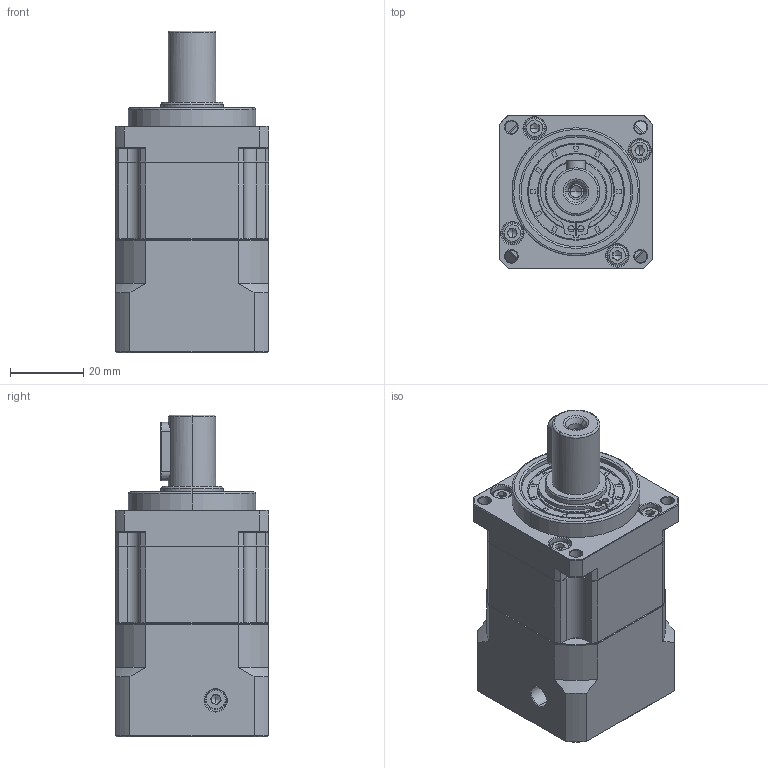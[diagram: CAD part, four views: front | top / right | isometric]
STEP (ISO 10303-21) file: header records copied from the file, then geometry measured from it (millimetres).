
FILE_DESCRIPTION (( 'STEP AP214' ), '1' );
FILE_NAME ('ZB040-L1-P2-8-30-45-M3.STEP', '2023-06-06T12:52:16', ( 'Windows 蚚誧' ), ( 'Organization' ), 'SwSTEP 2.0', 'SolidWorks 2016', '' );
FILE_SCHEMA (( 'AUTOMOTIVE_DESIGN' ));
Length unit declared in the file: millimetre
Products named in the file (1): ZB040-L1-P2-8-30-45-M3
Bounding box: 42 x 42 x 88 mm (x, y, z)
Volume: 99127.1 mm3; surface area: 26593.3 mm2
Topology: 6 solids, 6 shells, 1711 faces, 4429 edges, 2806 vertices
Faces by surface type: plane 675, cylinder 431, cone 303, bspline 282, torus 20
Entity records: 93578 total; most frequent: CARTESIAN_POINT 35660, ORIENTED_EDGE 8798, DIRECTION 7091, EDGE_CURVE 4399, VERTEX_POINT 2806, LINE 2447, VECTOR 2447, AXIS2_PLACEMENT_3D 2322
